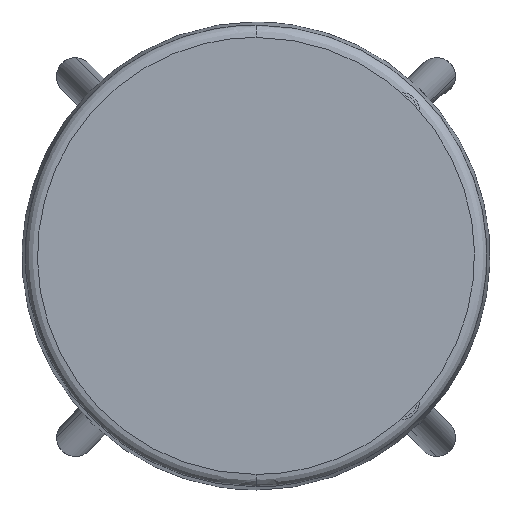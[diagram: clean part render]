
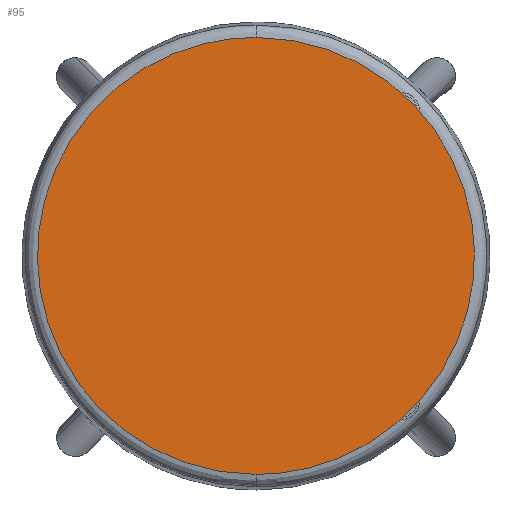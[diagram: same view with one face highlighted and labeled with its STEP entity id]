
A CAD part, top view. The second image highlights one B-rep face of the part: STEP entity #95.
In plain terms, the highlighted planar face has unit normal (0, 0, 1).
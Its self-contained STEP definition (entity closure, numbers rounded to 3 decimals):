
#95=ADVANCED_FACE('',(#233),#1882,.T.);
#233=FACE_OUTER_BOUND('',#371,.T.);
#371=EDGE_LOOP('',(#548,#549));
#548=ORIENTED_EDGE('',*,*,#1156,.F.);
#549=ORIENTED_EDGE('',*,*,#1128,.F.);
#1128=EDGE_CURVE('',#1718,#1726,#1549,.T.);
#1156=EDGE_CURVE('',#1726,#1718,#1563,.T.);
#1549=(
BOUNDED_CURVE()
B_SPLINE_CURVE(2,(#2949,#2950,#2951,#2952,#2953),.UNSPECIFIED.,.F.,.F.)
B_SPLINE_CURVE_WITH_KNOTS((3,2,3),(0.,276.204,552.407),
 .UNSPECIFIED.)
CURVE()
GEOMETRIC_REPRESENTATION_ITEM()
RATIONAL_B_SPLINE_CURVE((1.,0.707,1.,0.707,1.))
REPRESENTATION_ITEM('')
);
#1563=(
BOUNDED_CURVE()
B_SPLINE_CURVE(2,(#3365,#3366,#3367,#3368,#3369),.UNSPECIFIED.,.F.,.F.)
B_SPLINE_CURVE_WITH_KNOTS((3,2,3),(552.407,828.611,1104.814),
 .UNSPECIFIED.)
CURVE()
GEOMETRIC_REPRESENTATION_ITEM()
RATIONAL_B_SPLINE_CURVE((1.,0.707,1.,0.707,1.))
REPRESENTATION_ITEM('')
);
#1718=VERTEX_POINT('',#2866);
#1726=VERTEX_POINT('',#2874);
#1882=PLANE('',#2068);
#2068=AXIS2_PLACEMENT_3D('',#2398,#2165,$);
#2165=DIRECTION('',(0.,0.,1.));
#2398=CARTESIAN_POINT('',(-211.004,-211.004,460.703));
#2866=CARTESIAN_POINT('',(0.,175.837,460.703));
#2874=CARTESIAN_POINT('',(0.,-175.837,460.703));
#2949=CARTESIAN_POINT('',(0.,175.837,460.703));
#2950=CARTESIAN_POINT('',(175.837,175.837,460.703));
#2951=CARTESIAN_POINT('',(175.837,0.,460.703));
#2952=CARTESIAN_POINT('',(175.837,-175.837,460.703));
#2953=CARTESIAN_POINT('',(0.,-175.837,460.703));
#3365=CARTESIAN_POINT('',(0.,-175.837,460.703));
#3366=CARTESIAN_POINT('',(-175.837,-175.837,460.703));
#3367=CARTESIAN_POINT('',(-175.837,0.,460.703));
#3368=CARTESIAN_POINT('',(-175.837,175.837,460.703));
#3369=CARTESIAN_POINT('',(0.,175.837,460.703));
